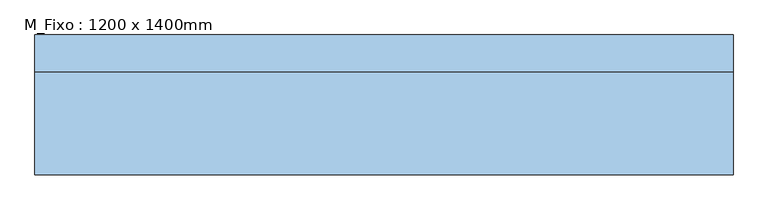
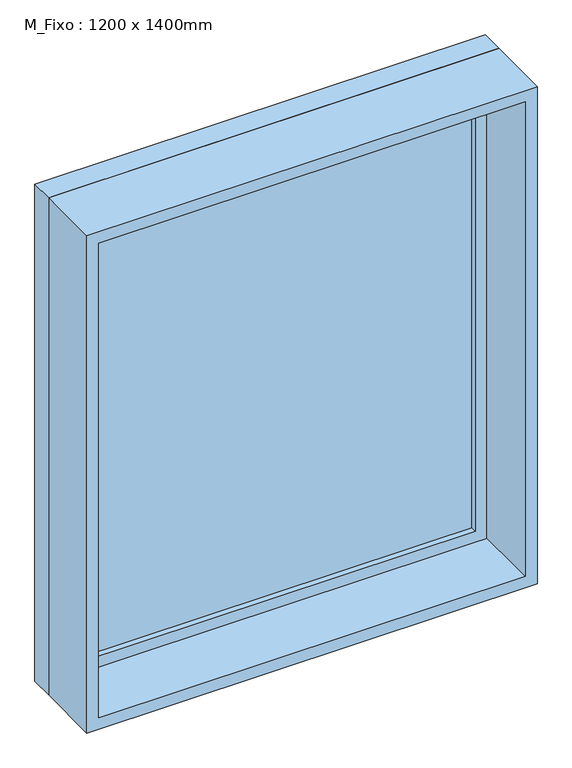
"""IFC4 building model written with IfcOpenShell, lengths in millimetres: window geometry, M_Fixo : 1200 x 1400mm."""

from ifc_helpers import new_model, si_unit, frame, origin, place, context, project, spatial, polyline, outline, extrude, source, transform, mapped, element, save


def m_fixo_1200_x_1400mm_b9efbf31(model_context):
    return source(origin(), model_context, "Body", "SweptSolid", [
        extrude(outline(polyline([(-537.0, 98.0), (537.0, 98.0), (537.0, 86.0), (-537.0, 86.0), (-537.0, 98.0)])), frame((0.0, 0.0, 1063.0), z_axis=(0.0, 0.0, 1.0), x_axis=(1.0, 0.0, 0.0)), (0.0, 0.0, 1.0), 1274.0),
        extrude(outline(polyline([(2381.0, -581.0), (1019.0, -581.0), (1019.0, 581.0), (2381.0, 581.0), (2381.0, -581.0)]), holes=[polyline([(2337.0, -537.0), (2337.0, 537.0), (1063.0, 537.0), (1063.0, -537.0), (2337.0, -537.0)])]), frame((0.0, 70.0, 0.0), z_axis=(0.0, 1.0, 0.0), x_axis=(0.0, 0.0, 1.0)), (0.0, 0.0, 1.0), 44.0),
        extrude(outline(polyline([(2400.0, -600.0), (1000.0, -600.0), (1000.0, 600.0), (2400.0, 600.0), (2400.0, -600.0)]), holes=[polyline([(2381.0, -581.0), (2381.0, 581.0), (1019.0, 581.0), (1019.0, -581.0), (2381.0, -581.0)])]), frame((0.0, 70.0, 0.0), z_axis=(0.0, 1.0, 0.0), x_axis=(0.0, 0.0, 1.0)), (0.0, 0.0, 1.0), 63.0),
        extrude(outline(polyline([(2400.0, -600.0), (1000.0, -600.0), (1000.0, 600.0), (2400.0, 600.0), (2400.0, -600.0)]), holes=[polyline([(2368.0, -568.0), (2368.0, 568.0), (1032.0, 568.0), (1032.0, -568.0), (2368.0, -568.0)])]), frame((0.0, -107.0, 0.0), z_axis=(0.0, 1.0, 0.0), x_axis=(0.0, 0.0, 1.0)), (0.0, 0.0, 1.0), 177.0),
    ])


if __name__ == "__main__":
    model = new_model("IFC4")
    model_context = context("Model", 3, world=origin())
    ifc_project = project(units=[si_unit("LENGTHUNIT", "METRE", prefix="MILLI")], contexts=[model_context])
    site = spatial("IfcSite", under=ifc_project)
    building = spatial("IfcBuilding", under=site)
    placement = place(None, origin())
    m_fixo_1200_x_1400mm_shape = m_fixo_1200_x_1400mm_b9efbf31(model_context)
    element("IfcWindow", 1, ObjectType="M_Fixo : 1200 x 1400mm", at=placement, inside=building, context=model_context, shape_type="MappedRepresentation", body=[
        mapped(m_fixo_1200_x_1400mm_shape, transform((0.0, 0.0, 0.0), x_axis=(1.0, 0.0, 0.0), y_axis=(0.0, 1.0, 0.0), z_axis=(0.0, 0.0, 1.0))),
    ])
    save(model, "model.ifc")
